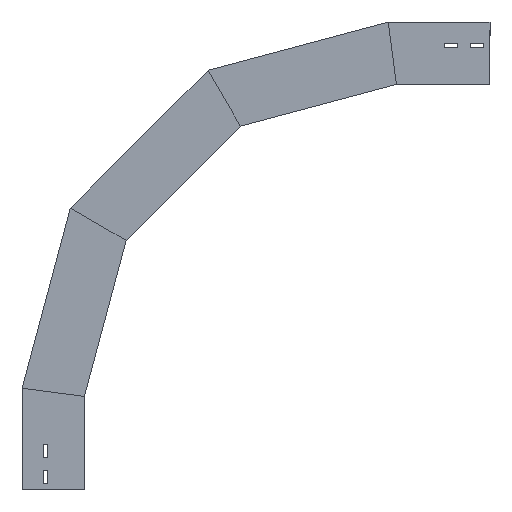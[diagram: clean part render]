
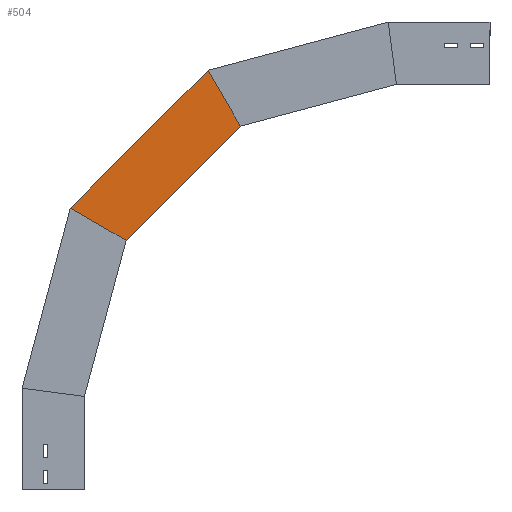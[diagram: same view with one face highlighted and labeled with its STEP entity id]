
A CAD part, left-side view. The second image highlights one B-rep face of the part: STEP entity #504.
In plain terms, the highlighted planar face has unit normal (-1, 0, 0) as drawn and (1, 0, 0) by its records, which use the part's own axes.
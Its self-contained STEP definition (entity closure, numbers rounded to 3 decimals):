
#27 = DIRECTION ( 'NONE',  ( 0., -0.866, -0.5 ) ) ;
#226 = ORIENTED_EDGE ( 'NONE', *, *, #477, .F. ) ;
#476 = DIRECTION ( 'NONE',  ( 0., -0.5, -0.866 ) ) ;
#477 = EDGE_CURVE ( 'NONE', #520, #1270, #749, .T. ) ;
#499 = DIRECTION ( 'NONE',  ( 0., -0.707, 0.707 ) ) ;
#504 = ADVANCED_FACE ( 'NONE', ( #777 ), #1358, .T. ) ;
#515 = EDGE_LOOP ( 'NONE', ( #1769, #550, #566, #226 ) ) ;
#518 = CARTESIAN_POINT ( 'NONE',  ( 0., 24.589, 449.973 ) ) ;
#520 = VERTEX_POINT ( 'NONE', #670 ) ;
#550 = ORIENTED_EDGE ( 'NONE', *, *, #783, .T. ) ;
#566 = ORIENTED_EDGE ( 'NONE', *, *, #1761, .F. ) ;
#567 = CARTESIAN_POINT ( 'NONE',  ( 0., -198.411, 672.973 ) ) ;
#637 = DIRECTION ( 'NONE',  ( 0., -0.707, 0.707 ) ) ;
#670 = CARTESIAN_POINT ( 'NONE',  ( 0., 22.623, 451.939 ) ) ;
#749 = LINE ( 'NONE', #1317, #1274 ) ;
#777 = FACE_OUTER_BOUND ( 'NONE', #515, .T. ) ;
#783 = EDGE_CURVE ( 'NONE', #1021, #1767, #1770, .T. ) ;
#948 = LINE ( 'NONE', #1515, #1033 ) ;
#1021 = VERTEX_POINT ( 'NONE', #567 ) ;
#1033 = VECTOR ( 'NONE', #637, 1000. ) ;
#1207 = DIRECTION ( 'NONE',  ( 0., 0., -1. ) ) ;
#1214 = DIRECTION ( 'NONE',  ( 1., 0., 0. ) ) ;
#1270 = VERTEX_POINT ( 'NONE', #1314 ) ;
#1274 = VECTOR ( 'NONE', #27, 1000. ) ;
#1314 = CARTESIAN_POINT ( 'NONE',  ( 0., -67.034, 400.175 ) ) ;
#1317 = CARTESIAN_POINT ( 'NONE',  ( 0., -128.356, 364.771 ) ) ;
#1322 = VECTOR ( 'NONE', #476, 1000. ) ;
#1358 = PLANE ( 'NONE',  #1395 ) ;
#1395 = AXIS2_PLACEMENT_3D ( 'NONE', #1633, #1214, #1207 ) ;
#1515 = CARTESIAN_POINT ( 'NONE',  ( 0., -46.122, 379.263 ) ) ;
#1523 = VECTOR ( 'NONE', #499, 1000. ) ;
#1581 = CARTESIAN_POINT ( 'NONE',  ( 0., -287.519, 518.633 ) ) ;
#1633 = CARTESIAN_POINT ( 'NONE',  ( 0., -46.122, 379.263 ) ) ;
#1704 = EDGE_CURVE ( 'NONE', #520, #1021, #1793, .T. ) ;
#1761 = EDGE_CURVE ( 'NONE', #1270, #1767, #948, .T. ) ;
#1767 = VERTEX_POINT ( 'NONE', #1802 ) ;
#1769 = ORIENTED_EDGE ( 'NONE', *, *, #1704, .T. ) ;
#1770 = LINE ( 'NONE', #1581, #1322 ) ;
#1793 = LINE ( 'NONE', #518, #1523 ) ;
#1802 = CARTESIAN_POINT ( 'NONE',  ( 0., -250.175, 583.315 ) ) ;
